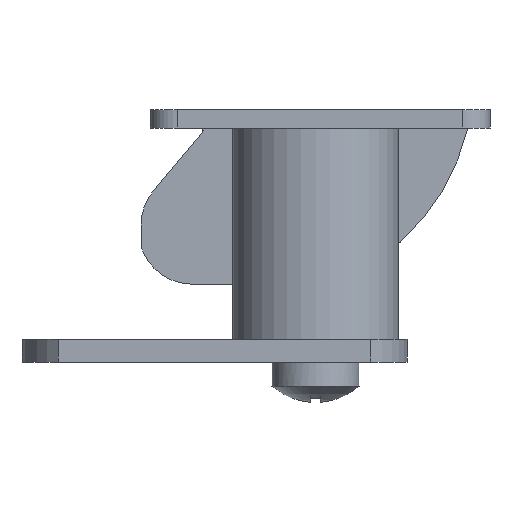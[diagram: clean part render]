
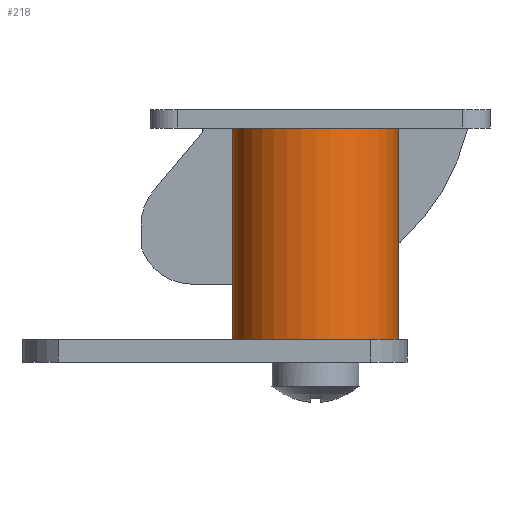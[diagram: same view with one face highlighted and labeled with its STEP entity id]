
A CAD part, left-side view. The second image highlights one B-rep face of the part: STEP entity #218.
In plain terms, the highlighted cylindrical face has radius 9 mm (diameter 18 mm), a full revolution.
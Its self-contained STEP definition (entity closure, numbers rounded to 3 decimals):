
#218 = ADVANCED_FACE( '', ( #361, #362 ), #363, .T. );
#361 = FACE_OUTER_BOUND( '', #544, .T. );
#362 = FACE_OUTER_BOUND( '', #545, .T. );
#363 = CYLINDRICAL_SURFACE( '', #546, 9. );
#544 = EDGE_LOOP( '', ( #1030 ) );
#545 = EDGE_LOOP( '', ( #1031 ) );
#546 = AXIS2_PLACEMENT_3D( '', #1032, #1033, #1034 );
#1030 = ORIENTED_EDGE( '', *, *, #1438, .F. );
#1031 = ORIENTED_EDGE( '', *, *, #1421, .T. );
#1032 = CARTESIAN_POINT( '', ( 0., 0., -25.5 ) );
#1033 = DIRECTION( '', ( 0., 0., 1. ) );
#1034 = DIRECTION( '', ( -1., 0., 0. ) );
#1421 = EDGE_CURVE( '', #1724, #1724, #1725, .F. );
#1438 = EDGE_CURVE( '', #1750, #1750, #1751, .T. );
#1724 = VERTEX_POINT( '', #2155 );
#1725 = CIRCLE( '', #2156, 9. );
#1750 = VERTEX_POINT( '', #2193 );
#1751 = CIRCLE( '', #2194, 9. );
#2155 = CARTESIAN_POINT( '', ( 9., 0., 0. ) );
#2156 = AXIS2_PLACEMENT_3D( '', #2552, #2553, #2554 );
#2193 = CARTESIAN_POINT( '', ( -9., 0., -23. ) );
#2194 = AXIS2_PLACEMENT_3D( '', #2579, #2580, #2581 );
#2552 = CARTESIAN_POINT( '', ( 0., 0., 0. ) );
#2553 = DIRECTION( '', ( 0., 0., 1. ) );
#2554 = DIRECTION( '', ( 1., 0., 0. ) );
#2579 = CARTESIAN_POINT( '', ( 0., 0., -23. ) );
#2580 = DIRECTION( '', ( 0., 0., -1. ) );
#2581 = DIRECTION( '', ( -1., 0., 0. ) );
